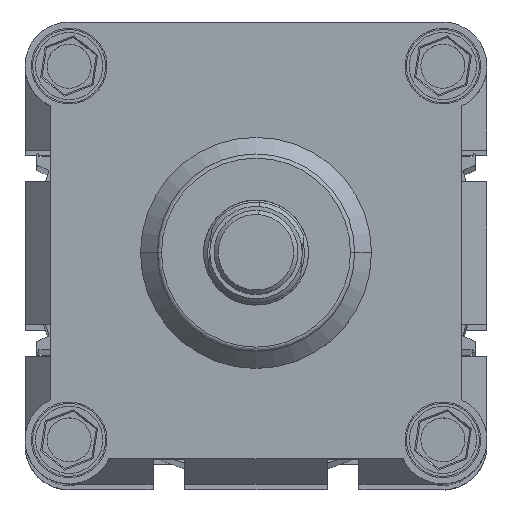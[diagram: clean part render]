
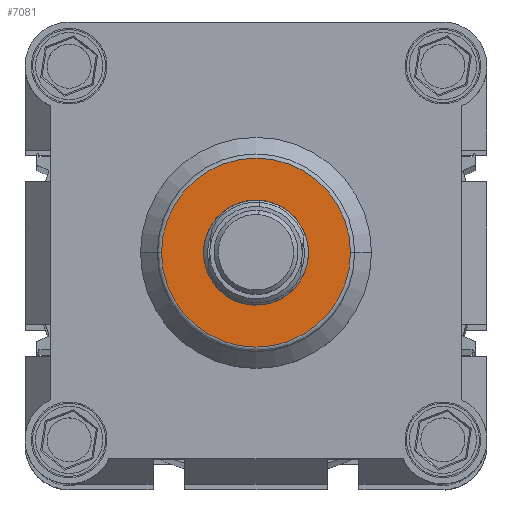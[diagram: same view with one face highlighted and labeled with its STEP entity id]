
A CAD part, top view. The second image highlights one B-rep face of the part: STEP entity #7081.
In plain terms, the highlighted planar face has unit normal (0, 0, 1).
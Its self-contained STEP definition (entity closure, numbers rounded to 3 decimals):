
#570 = EDGE_LOOP ( 'NONE', ( #6033, #1673 ) ) ;
#1185 = DIRECTION ( 'NONE',  ( 0., 0., 1. ) ) ;
#1518 = DIRECTION ( 'NONE',  ( 0., 0., 1. ) ) ;
#1625 = ORIENTED_EDGE ( 'NONE', *, *, #9255, .F. ) ;
#1673 = ORIENTED_EDGE ( 'NONE', *, *, #4626, .T. ) ;
#2816 = VERTEX_POINT ( 'NONE', #11917 ) ;
#3487 = CARTESIAN_POINT ( 'NONE',  ( 42.5, 55., 80. ) ) ;
#3673 = AXIS2_PLACEMENT_3D ( 'NONE', #10828, #7463, #10901 ) ;
#4626 = EDGE_CURVE ( 'NONE', #17393, #2816, #18735, .T. ) ;
#4996 = DIRECTION ( 'NONE',  ( 1., 0., 0. ) ) ;
#5225 = PLANE ( 'NONE',  #12625 ) ;
#5829 = EDGE_LOOP ( 'NONE', ( #22000, #1625 ) ) ;
#6033 = ORIENTED_EDGE ( 'NONE', *, *, #22185, .T. ) ;
#6365 = DIRECTION ( 'NONE',  ( 1., 0., 0. ) ) ;
#7081 = ADVANCED_FACE ( 'NONE', ( #7743, #13088 ), #5225, .T. ) ;
#7463 = DIRECTION ( 'NONE',  ( 0., 0., 1. ) ) ;
#7743 = FACE_BOUND ( 'NONE', #5829, .T. ) ;
#7845 = AXIS2_PLACEMENT_3D ( 'NONE', #22431, #1185, #6365 ) ;
#8762 = CARTESIAN_POINT ( 'NONE',  ( 55., 55., 80. ) ) ;
#8830 = DIRECTION ( 'NONE',  ( 0., 0., 1. ) ) ;
#9255 = EDGE_CURVE ( 'NONE', #10611, #19792, #15182, .T. ) ;
#10203 = CARTESIAN_POINT ( 'NONE',  ( 32.5, 55., 80. ) ) ;
#10611 = VERTEX_POINT ( 'NONE', #3487 ) ;
#10828 = CARTESIAN_POINT ( 'NONE',  ( 55., 55., 80. ) ) ;
#10901 = DIRECTION ( 'NONE',  ( 1., 0., 0. ) ) ;
#11809 = CIRCLE ( 'NONE', #12673, 22.5 ) ;
#11917 = CARTESIAN_POINT ( 'NONE',  ( 77.5, 55., 80. ) ) ;
#12286 = CARTESIAN_POINT ( 'NONE',  ( 55., 55., 80. ) ) ;
#12297 = AXIS2_PLACEMENT_3D ( 'NONE', #12286, #1518, #17854 ) ;
#12378 = DIRECTION ( 'NONE',  ( 1., 0., 0. ) ) ;
#12625 = AXIS2_PLACEMENT_3D ( 'NONE', #17412, #21002, #4996 ) ;
#12673 = AXIS2_PLACEMENT_3D ( 'NONE', #8762, #8830, #12378 ) ;
#13088 = FACE_OUTER_BOUND ( 'NONE', #570, .T. ) ;
#15182 = CIRCLE ( 'NONE', #7845, 12.5 ) ;
#17393 = VERTEX_POINT ( 'NONE', #10203 ) ;
#17412 = CARTESIAN_POINT ( 'NONE',  ( 55., 55., 80. ) ) ;
#17854 = DIRECTION ( 'NONE',  ( 1., 0., 0. ) ) ;
#18735 = CIRCLE ( 'NONE', #12297, 22.5 ) ;
#19792 = VERTEX_POINT ( 'NONE', #22721 ) ;
#21002 = DIRECTION ( 'NONE',  ( 0., 0., 1. ) ) ;
#21811 = CIRCLE ( 'NONE', #3673, 12.5 ) ;
#22000 = ORIENTED_EDGE ( 'NONE', *, *, #22796, .F. ) ;
#22185 = EDGE_CURVE ( 'NONE', #2816, #17393, #11809, .T. ) ;
#22431 = CARTESIAN_POINT ( 'NONE',  ( 55., 55., 80. ) ) ;
#22721 = CARTESIAN_POINT ( 'NONE',  ( 67.5, 55., 80. ) ) ;
#22796 = EDGE_CURVE ( 'NONE', #19792, #10611, #21811, .T. ) ;
